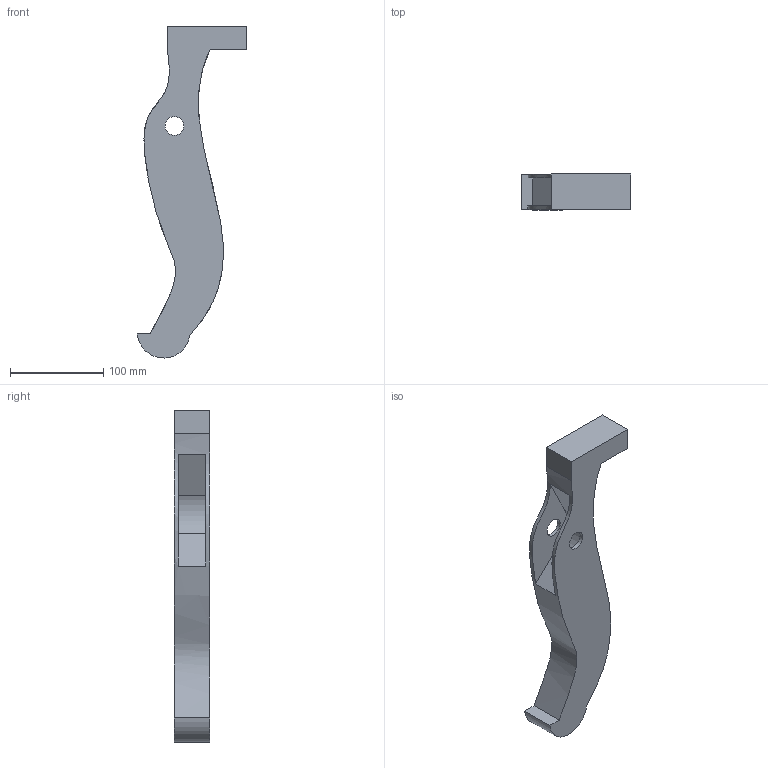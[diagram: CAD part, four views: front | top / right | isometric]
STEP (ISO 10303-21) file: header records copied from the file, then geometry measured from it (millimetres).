
FILE_DESCRIPTION(('STEP AP242'), '1');
FILE_NAME('Íîæêà', '', ('UNSPECIFIED'), ('UNSPECIFIED'), 'C3D Converter', 'C3D Toolkit', '');
FILE_SCHEMA(('AP242_MANAGED_MODEL_BASED_3D_ENGINEERING_MIM_LF { 1 0 10303 442 1 1 4 }'));
Length unit declared in the file: millimetre
Bounding box: 117.22 x 38 x 355.97 mm (x, y, z)
Volume: 644039.7 mm3; surface area: 80958.5 mm2
Topology: 1 solids, 1 shells, 17 faces, 42 edges, 28 vertices
Faces by surface type: plane 11, cylinder 4, extrusion 2
Full cylindrical faces by diameter (mm): 20 x2
Entity records: 562 total; most frequent: CARTESIAN_POINT 118, ORIENTED_EDGE 80, DIRECTION 76, EDGE_CURVE 40, VECTOR 28, VERTEX_POINT 28, LINE 26, AXIS2_PLACEMENT_3D 24
